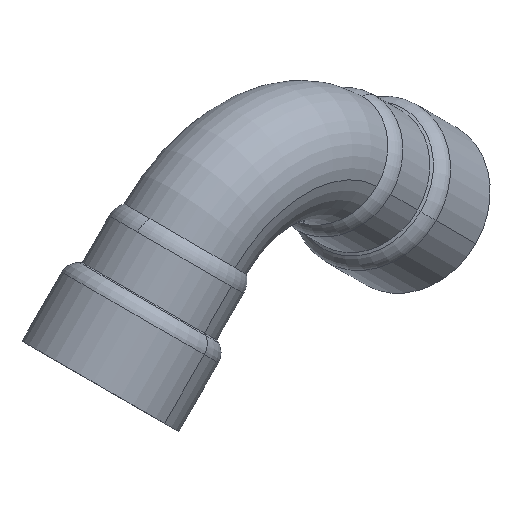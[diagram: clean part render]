
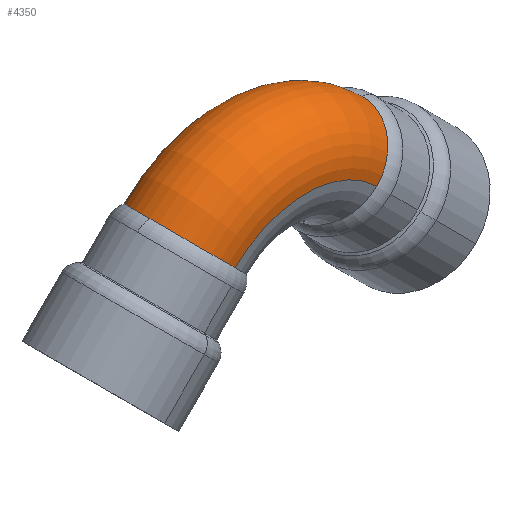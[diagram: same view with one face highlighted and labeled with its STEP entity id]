
A CAD part, isometric view. The second image highlights one B-rep face of the part: STEP entity #4350.
In plain terms, the highlighted toroidal (fillet/blend) face has major radius 25 mm and minor radius 12.5 mm.
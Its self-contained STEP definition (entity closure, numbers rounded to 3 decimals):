
#220=CARTESIAN_POINT('',(37.734,76.709,0.));
#230=VERTEX_POINT('',#220);
#260=CARTESIAN_POINT('',(37.734,64.209,0.));
#270=DIRECTION('',(-1.,0.,0.));
#280=DIRECTION('',(0.,0.,-1.));
#290=AXIS2_PLACEMENT_3D('',#260,#270,#280);
#300=CIRCLE('',#290,12.5);
#310=CARTESIAN_POINT('',(37.734,64.209,12.5));
#320=VERTEX_POINT('',#310);
#330=EDGE_CURVE('',#320,#230,#300,.T.);
#2040=CARTESIAN_POINT('',(37.734,39.209,12.5));
#2050=DIRECTION('',(0.,0.,1.));
#2060=DIRECTION('',(0.707,0.707,
0.));
#2070=AXIS2_PLACEMENT_3D('',#2040,#2050,#2060);
#2080=CIRCLE('',#2070,25.);
#2090=CARTESIAN_POINT('',(62.734,39.209,12.5));
#2100=VERTEX_POINT('',#2090);
#2110=EDGE_CURVE('',#2100,#320,#2080,.T.);
#2130=CARTESIAN_POINT('',(62.734,39.209,
0.));
#2140=DIRECTION('',(0.,1.,0.));
#2150=DIRECTION('',(0.,0.,-1.));
#2160=AXIS2_PLACEMENT_3D('',#2130,#2140,#2150);
#2170=CIRCLE('',#2160,12.5);
#2220=CARTESIAN_POINT('',(62.734,39.209,-12.5));
#2230=VERTEX_POINT('',#2220);
#2260=CARTESIAN_POINT('',(37.734,39.209,-12.5));
#2270=DIRECTION('',(0.,0.,1.));
#2280=DIRECTION('',(0.707,0.707,
0.));
#2290=AXIS2_PLACEMENT_3D('',#2260,#2270,#2280);
#2300=CIRCLE('',#2290,25.);
#2310=CARTESIAN_POINT('',(37.734,64.209,-12.5));
#2320=VERTEX_POINT('',#2310);
#2330=EDGE_CURVE('',#2230,#2320,#2300,.T.);
#4170=CARTESIAN_POINT('',(37.734,39.209,
0.));
#4180=DIRECTION('',(0.,0.,1.));
#4190=DIRECTION('',(0.707,0.707,
0.));
#4200=AXIS2_PLACEMENT_3D('',#4170,#4180,#4190);
#4210=TOROIDAL_SURFACE('',#4200,25.,12.5);
#4220=CARTESIAN_POINT('',(75.234,39.209,
0.));
#4230=VERTEX_POINT('',#4220);
#4240=EDGE_CURVE('',#2100,#4230,#2170,.T.);
#4250=ORIENTED_EDGE('',*,*,#4240,.T.);
#4260=ORIENTED_EDGE('',*,*,#2110,.F.);
#4270=ORIENTED_EDGE('',*,*,#330,.F.);
#4280=EDGE_CURVE('',#230,#2320,#300,.T.);
#4290=ORIENTED_EDGE('',*,*,#4280,.F.);
#4300=ORIENTED_EDGE('',*,*,#2330,.T.);
#4310=EDGE_CURVE('',#4230,#2230,#2170,.T.);
#4320=ORIENTED_EDGE('',*,*,#4310,.T.);
#4330=EDGE_LOOP('',(#4320,#4300,#4290,#4270,#4260,#4250));
#4340=FACE_OUTER_BOUND('',#4330,.T.);
#4350=ADVANCED_FACE('',(#4340),#4210,.T.);
